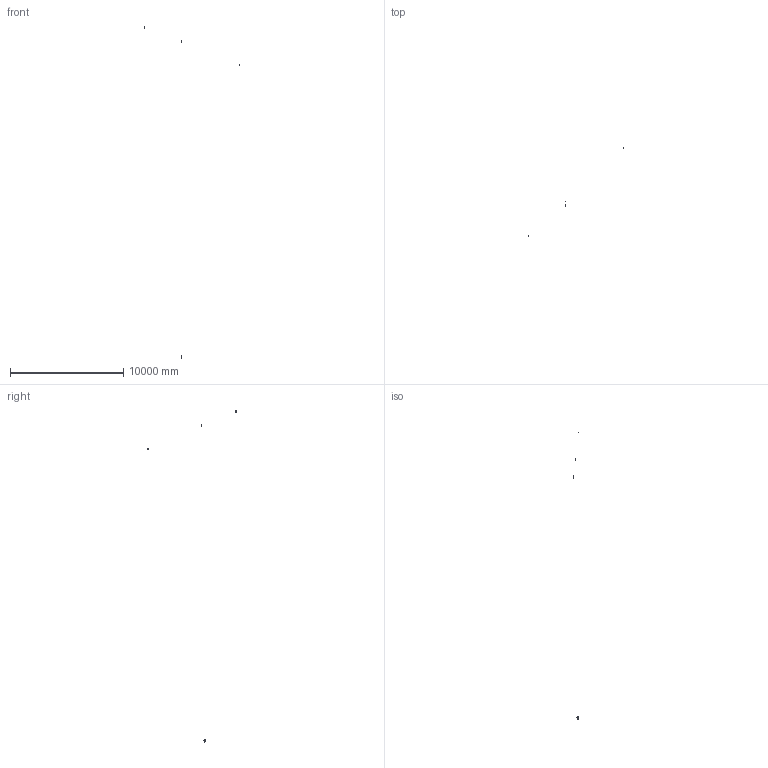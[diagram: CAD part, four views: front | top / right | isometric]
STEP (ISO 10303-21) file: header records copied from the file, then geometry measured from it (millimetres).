
FILE_DESCRIPTION (( 'STEP AP203' ), '1' );
FILE_NAME ('81401733_CFM.STEP', '2026-02-23T16:52:53', ( '' ), ( '' ), 'SwSTEP 2.0', 'SolidWorks 2024', '' );
FILE_SCHEMA (( 'CONFIG_CONTROL_DESIGN' ));
Products named in the file (1): 81401733_CFM
Bounding box: 8450.77 x 7810.9 x 29351.56 mm (x, y, z)
Volume: 1249289.6 mm3; surface area: 328291.2 mm2
Topology: 155 solids, 157 shells, 10460 faces, 28431 edges, 18645 vertices
Faces by surface type: cylinder 4207, plane 2874, bspline 1984, cone 1095, torus 176, sphere 124
Entity records: 473620 total; most frequent: CARTESIAN_POINT 237371, ORIENTED_EDGE 56034, DIRECTION 40286, EDGE_CURVE 28017, VERTEX_POINT 18465, AXIS2_PLACEMENT_3D 13842, VECTOR 12602, LINE 12602
